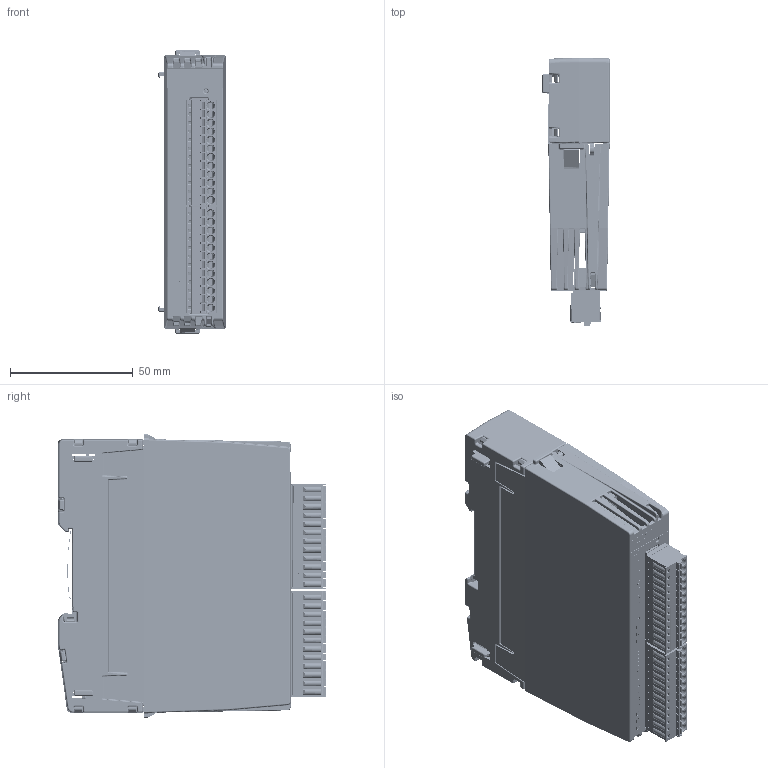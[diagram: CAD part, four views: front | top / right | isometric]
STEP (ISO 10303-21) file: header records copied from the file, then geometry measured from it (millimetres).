
FILE_DESCRIPTION(/* description */ (''),/* implementation_level */ '2;1');
FILE_NAME(/* name */ 'C:\Users\Public\Documents\Autodesk\Inventor 2023\DI20C_Simplified+BackBB21A.stp',/* time_stamp */ '2024-10-15T21:04:06+02:00',/* author */ ('shoma'),/* organization */ (''),/* preprocessor_version */ 'ST-DEVELOPER v19',/* originating_system */ 'Autodesk Inventor 2023',/* authorisation */ '');
FILE_SCHEMA (('AUTOMOTIVE_DESIGN { 1 0 10303 214 3 1 1 }'));
Products named in the file (1): DI20C_Simplified+BackBB21A
Bounding box: 27.4 x 109.39 x 115.5 mm (x, y, z)
Volume: 155135.1 mm3; surface area: 94473.4 mm2
Topology: 7 solids, 57 shells, 9488 faces, 25231 edges, 15916 vertices
Faces by surface type: plane 5754, cylinder 2404, bspline 886, cone 237, sphere 162, torus 45
Full cylindrical faces by diameter (mm): 0.296 x2, 0.3 x152, 0.457 x2, 0.7 x36, 0.8 x6, 0.85 x24, 0.9 x8, 1.17 x24, 1.2 x24, 1.25 x24, 1.3 x24, 1.4 x4, 1.6 x26, 2.35 x2, 2.5 x1, 3 x1, 3.1 x24, 3.25 x2
Entity records: 328155 total; most frequent: CARTESIAN_POINT 84021, ORIENTED_EDGE 50156, DIRECTION 46388, EDGE_CURVE 25078, LINE 17766, VECTOR 17766, VERTEX_POINT 15916, AXIS2_PLACEMENT_3D 14311
